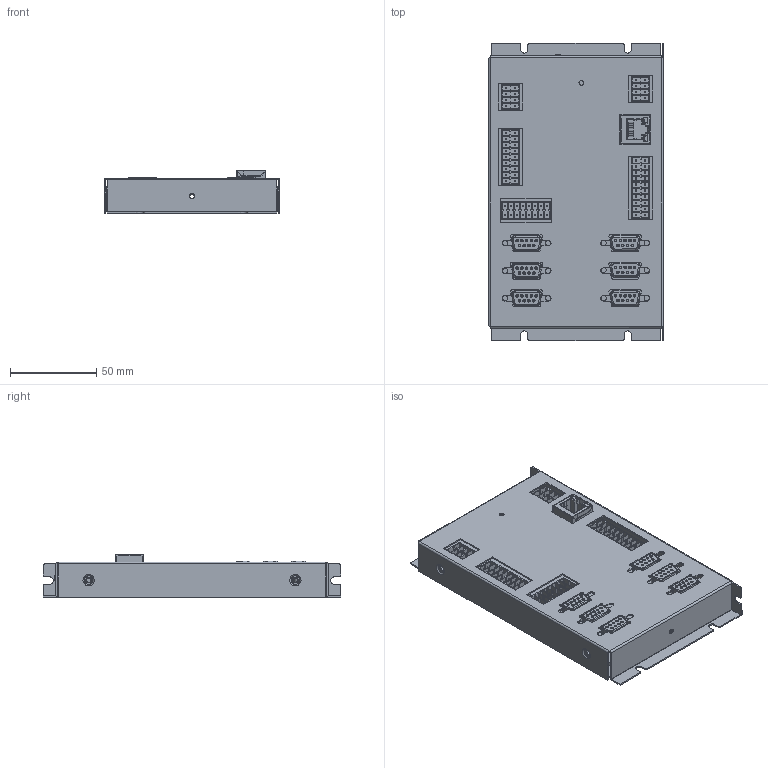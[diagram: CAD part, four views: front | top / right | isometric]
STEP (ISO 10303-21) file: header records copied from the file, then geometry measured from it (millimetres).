
FILE_DESCRIPTION (( 'STEP AP203' ), '1' );
FILE_NAME ('VM4000Pro.STEP', '2026-05-24T04:16:55', ( '' ), ( '' ), 'SwSTEP 2.0', 'SolidWorks 2023', '' );
FILE_SCHEMA (( 'CONFIG_CONTROL_DESIGN' ));
Length unit declared in the file: millimetre
Products named in the file (24): J8; P2; VM4000Pro; Board; 小驱动器; P1; J3; J5; CONN-TH_12P-P3.50_KEFA_KF2EDGSV-3.5-2X6P~CONN-TH_12P-P3.50_KEFA_KF2EDGSV-3.5-2X6P~gawh_1.step; 底座; CN1~CONN-TH_12P-P3.50_KEFA_KF2EDGSV-3.5-2X6P~CONN-TH_12P-P3.50_KEFA_KF2EDGSV-3.5-2X6P~9qys_1.step; P4; KF2EDGSV-3.5-2-6; 上盖; User_Library-Norcomp_171-009-213R911_DB9Recept_VerticalMount; J4; P6; 驱动器差分V1.0--; HY951180A; Designator6; 4P-ok; J6; User_Library-TC-1102N-C-DL-B1; J7
Assembly tree (34 placements, depth 7):
  VM4000Pro
    上盖
    小驱动器
      驱动器差分V1.0--
        Designator6
          User_Library-TC-1102N-C-DL-B1
        J8
          User_Library-Norcomp_171-009-213R911_DB9Recept_VerticalMount
        J7
          User_Library-Norcomp_171-009-213R911_DB9Recept_VerticalMount
        J5
          User_Library-Norcomp_171-009-213R911_DB9Recept_VerticalMount
        J4
          User_Library-Norcomp_171-009-213R911_DB9Recept_VerticalMount
        J3
          User_Library-Norcomp_171-009-213R911_DB9Recept_VerticalMount
        P4
          KF2EDGSV-3.5-2-6  x2
            CN1~CONN-TH_12P-P3.50_KEFA_KF2EDGSV-3.5-2X6P~CONN-TH_12P-P3.50_KEFA_KF2EDGSV-3.5-2X6P~9qys_1.step
              CONN-TH_12P-P3.50_KEFA_KF2EDGSV-3.5-2X6P~CONN-TH_12P-P3.50_KEFA_KF2EDGSV-3.5-2X6P~gawh_1.step
        P6
          KF2EDGSV-3.5-2-6  x2
            CN1~CONN-TH_12P-P3.50_KEFA_KF2EDGSV-3.5-2X6P~CONN-TH_12P-P3.50_KEFA_KF2EDGSV-3.5-2X6P~9qys_1.step
              CONN-TH_12P-P3.50_KEFA_KF2EDGSV-3.5-2X6P~CONN-TH_12P-P3.50_KEFA_KF2EDGSV-3.5-2X6P~gawh_1.step
        P1
          HY951180A
        J6
          User_Library-Norcomp_171-009-213R911_DB9Recept_VerticalMount
        P2
          KF2EDGSV-3.5-2-6  x2
            CN1~CONN-TH_12P-P3.50_KEFA_KF2EDGSV-3.5-2X6P~CONN-TH_12P-P3.50_KEFA_KF2EDGSV-3.5-2X6P~9qys_1.step
              CONN-TH_12P-P3.50_KEFA_KF2EDGSV-3.5-2X6P~CONN-TH_12P-P3.50_KEFA_KF2EDGSV-3.5-2X6P~gawh_1.step
        Board
      4P-ok  x2
    底座
Bounding box: 101.6 x 172.5 x 24.8 mm (x, y, z)
Volume: 85761.6 mm3; surface area: 159997.2 mm2
Topology: 59 solids, 59 shells, 7374 faces, 18261 edges, 11713 vertices
Faces by surface type: plane 4767, cylinder 1315, bspline 915, cone 247, torus 114, sphere 16
Entity records: 105538 total; most frequent: CARTESIAN_POINT 23614, ORIENTED_EDGE 16644, DIRECTION 15455, EDGE_CURVE 8322, VECTOR 5915, LINE 5915, VERTEX_POINT 5408, AXIS2_PLACEMENT_3D 4770
